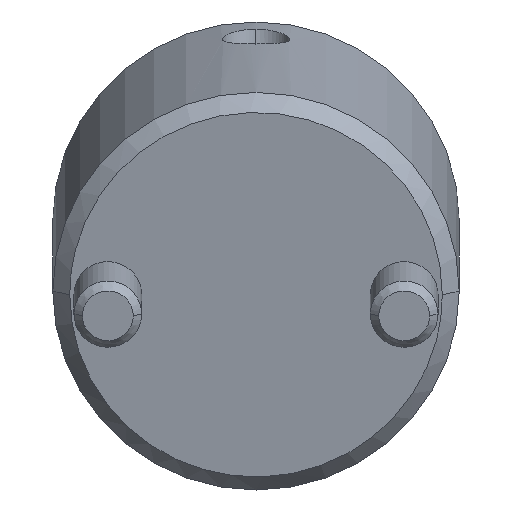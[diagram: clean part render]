
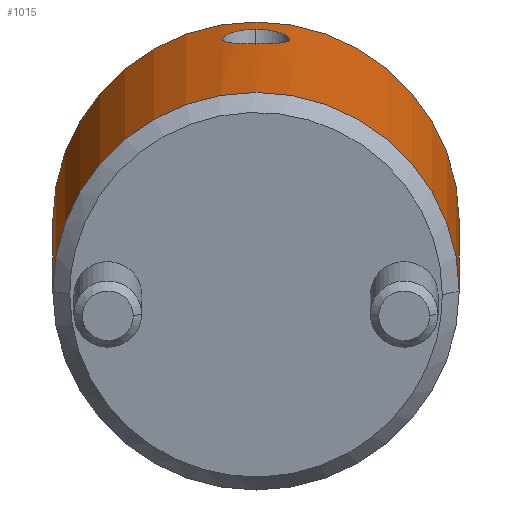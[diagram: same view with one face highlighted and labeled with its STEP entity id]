
A CAD part, front view. The second image highlights one B-rep face of the part: STEP entity #1015.
In plain terms, the highlighted cylindrical face has radius 12 mm (diameter 24 mm), a partial arc.
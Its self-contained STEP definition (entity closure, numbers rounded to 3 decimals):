
#778=CARTESIAN_POINT('Vertex',(0.,12.,1.)) ;
#781=CARTESIAN_POINT('Axis2P3D Location',(0.,0.,1.)) ;
#785=CARTESIAN_POINT('Vertex',(0.,-12.,1.)) ;
#925=CARTESIAN_POINT('Axis2P3D Location',(0.,0.,-1.1)) ;
#930=CARTESIAN_POINT('Line Origine',(0.,12.,-1.1)) ;
#934=CARTESIAN_POINT('Vertex',(0.,12.,21.)) ;
#937=CARTESIAN_POINT('Axis2P3D Location',(0.,0.,21.)) ;
#941=CARTESIAN_POINT('Vertex',(0.,-12.,21.)) ;
#944=CARTESIAN_POINT('Line Origine',(0.,-12.,-1.1)) ;
#956=CARTESIAN_POINT('Control Point',(12.,0.,18.948)) ;
#957=CARTESIAN_POINT('Control Point',(12.,0.344,18.948)) ;
#958=CARTESIAN_POINT('Control Point',(11.988,0.679,18.871)) ;
#959=CARTESIAN_POINT('Control Point',(11.964,0.999,18.717)) ;
#960=CARTESIAN_POINT('Control Point',(11.922,1.385,18.416)) ;
#961=CARTESIAN_POINT('Control Point',(11.884,1.669,18.018)) ;
#962=CARTESIAN_POINT('Control Point',(11.873,1.742,17.896)) ;
#963=CARTESIAN_POINT('Control Point',(11.854,1.867,17.64)) ;
#964=CARTESIAN_POINT('Control Point',(11.841,1.947,17.367)) ;
#965=CARTESIAN_POINT('Control Point',(11.836,1.976,17.226)) ;
#966=CARTESIAN_POINT('Control Point',(11.83,2.01,16.946)) ;
#967=CARTESIAN_POINT('Control Point',(11.833,1.997,16.665)) ;
#968=CARTESIAN_POINT('Control Point',(11.836,1.979,16.526)) ;
#969=CARTESIAN_POINT('Control Point',(11.846,1.919,16.253)) ;
#970=CARTESIAN_POINT('Control Point',(11.862,1.814,15.996)) ;
#971=CARTESIAN_POINT('Control Point',(11.872,1.751,15.874)) ;
#972=CARTESIAN_POINT('Control Point',(11.911,1.48,15.443)) ;
#973=CARTESIAN_POINT('Control Point',(11.957,1.082,15.11)) ;
#974=CARTESIAN_POINT('Control Point',(11.986,0.734,14.942)) ;
#975=CARTESIAN_POINT('Control Point',(12.,0.372,14.859)) ;
#976=CARTESIAN_POINT('Control Point',(12.,0.,14.859)) ;
#977=CARTESIAN_POINT('Vertex',(12.,0.,18.948)) ;
#979=CARTESIAN_POINT('Vertex',(12.,0.,14.859)) ;
#983=CARTESIAN_POINT('Control Point',(12.,0.,14.859)) ;
#984=CARTESIAN_POINT('Control Point',(12.,-0.139,14.859)) ;
#985=CARTESIAN_POINT('Control Point',(11.998,-0.277,14.87)) ;
#986=CARTESIAN_POINT('Control Point',(11.994,-0.413,14.894)) ;
#987=CARTESIAN_POINT('Control Point',(11.982,-0.682,14.964)) ;
#988=CARTESIAN_POINT('Control Point',(11.965,-0.934,15.08)) ;
#989=CARTESIAN_POINT('Control Point',(11.954,-1.056,15.149)) ;
#990=CARTESIAN_POINT('Control Point',(11.932,-1.283,15.305)) ;
#991=CARTESIAN_POINT('Control Point',(11.909,-1.48,15.498)) ;
#992=CARTESIAN_POINT('Control Point',(11.897,-1.569,15.603)) ;
#993=CARTESIAN_POINT('Control Point',(11.864,-1.812,15.942)) ;
#994=CARTESIAN_POINT('Control Point',(11.839,-1.961,16.335)) ;
#995=CARTESIAN_POINT('Control Point',(11.83,-2.014,16.615)) ;
#996=CARTESIAN_POINT('Control Point',(11.829,-2.021,17.04)) ;
#997=CARTESIAN_POINT('Control Point',(11.845,-1.924,17.454)) ;
#998=CARTESIAN_POINT('Control Point',(11.852,-1.881,17.589)) ;
#999=CARTESIAN_POINT('Control Point',(11.869,-1.771,17.852)) ;
#1000=CARTESIAN_POINT('Control Point',(11.891,-1.619,18.093)) ;
#1001=CARTESIAN_POINT('Control Point',(11.902,-1.532,18.208)) ;
#1002=CARTESIAN_POINT('Control Point',(11.931,-1.299,18.468)) ;
#1003=CARTESIAN_POINT('Control Point',(11.959,-1.018,18.673)) ;
#1004=CARTESIAN_POINT('Control Point',(11.973,-0.837,18.772)) ;
#1005=CARTESIAN_POINT('Control Point',(11.989,-0.56,18.88)) ;
#1006=CARTESIAN_POINT('Control Point',(11.997,-0.269,18.932)) ;
#1007=CARTESIAN_POINT('Control Point',(11.999,-0.18,18.943)) ;
#1008=CARTESIAN_POINT('Control Point',(12.,-0.09,18.948)) ;
#1009=CARTESIAN_POINT('Control Point',(12.,0.,18.948)) ;
#782=DIRECTION('Axis2P3D Direction',(0.,0.,1.)) ;
#926=DIRECTION('Axis2P3D Direction',(0.,-0.,1.)) ;
#927=DIRECTION('Axis2P3D XDirection',(0.,-1.,0.)) ;
#931=DIRECTION('Vector Direction',(0.,0.,1.)) ;
#938=DIRECTION('Axis2P3D Direction',(0.,-0.,1.)) ;
#945=DIRECTION('Vector Direction',(0.,0.,1.)) ;
#783=AXIS2_PLACEMENT_3D('Circle Axis2P3D',#781,#782,$) ;
#928=AXIS2_PLACEMENT_3D('Cylinder Axis2P3D',#925,#926,#927) ;
#939=AXIS2_PLACEMENT_3D('Circle Axis2P3D',#937,#938,$) ;
#950=ORIENTED_EDGE('',*,*,#936,.F.) ;
#951=ORIENTED_EDGE('',*,*,#943,.T.) ;
#952=ORIENTED_EDGE('',*,*,#948,.T.) ;
#953=ORIENTED_EDGE('',*,*,#787,.F.) ;
#1012=ORIENTED_EDGE('',*,*,#981,.T.) ;
#1013=ORIENTED_EDGE('',*,*,#1010,.T.) ;
#1014=FACE_BOUND('',#1011,.T.) ;
#932=VECTOR('Line Direction',#931,1.) ;
#946=VECTOR('Line Direction',#945,1.) ;
#1015=ADVANCED_FACE('MANIFOLD_SOLID_BREP #1097',(#954,#1014),#929,.T.) ;
#955=B_SPLINE_CURVE_WITH_KNOTS('',5,(#956,#957,#958,#959,#960,#961,#962,#963,#964,#965,#966,#967,#968,#969,#970,#971,#972,#973,#974,#975,#976),.UNSPECIFIED.,.F.,.U.,(6,3,3,3,3,3,6),(0.,2.427,3.431,4.427,5.412,6.39,9.01),.UNSPECIFIED.) ;
#982=B_SPLINE_CURVE_WITH_KNOTS('',5,(#983,#984,#985,#986,#987,#988,#989,#990,#991,#992,#993,#994,#995,#996,#997,#998,#999,#1000,#1001,#1002,#1003,#1004,#1005,#1006,#1007,#1008,#1009),.UNSPECIFIED.,.F.,.U.,(6,3,3,3,3,3,3,3,6),(0.,0.981,1.96,2.938,4.906,5.909,6.91,8.376,9.012),.UNSPECIFIED.) ;
#784=CIRCLE('generated circle',#783,12.) ;
#940=CIRCLE('generated circle',#939,12.) ;
#929=CYLINDRICAL_SURFACE('generated cylinder',#928,12.) ;
#787=EDGE_CURVE('',#779,#786,#784,.F.) ;
#936=EDGE_CURVE('',#935,#779,#933,.F.) ;
#943=EDGE_CURVE('',#935,#942,#940,.F.) ;
#948=EDGE_CURVE('',#942,#786,#947,.F.) ;
#981=EDGE_CURVE('',#978,#980,#955,.T.) ;
#1010=EDGE_CURVE('',#980,#978,#982,.T.) ;
#949=EDGE_LOOP('',(#950,#951,#952,#953)) ;
#1011=EDGE_LOOP('',(#1012,#1013)) ;
#954=FACE_OUTER_BOUND('',#949,.T.) ;
#933=LINE('Line',#930,#932) ;
#947=LINE('Line',#944,#946) ;
#779=VERTEX_POINT('',#778) ;
#786=VERTEX_POINT('',#785) ;
#935=VERTEX_POINT('',#934) ;
#942=VERTEX_POINT('',#941) ;
#978=VERTEX_POINT('',#977) ;
#980=VERTEX_POINT('',#979) ;
